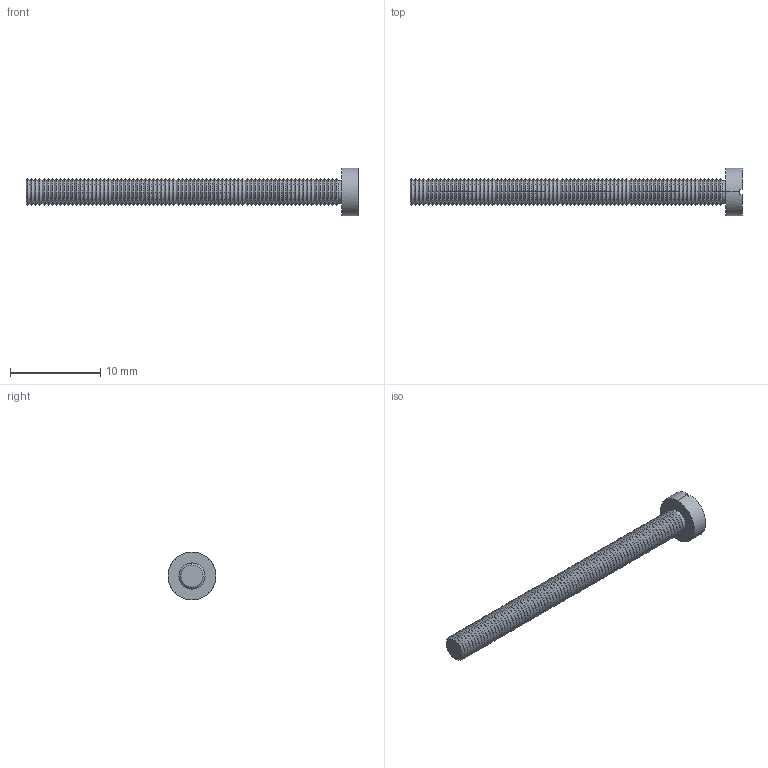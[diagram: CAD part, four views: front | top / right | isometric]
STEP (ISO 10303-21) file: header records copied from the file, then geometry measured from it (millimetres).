
FILE_DESCRIPTION (( 'STEP AP214' ), '1' );
FILE_NAME ('Cargol M 3x8 PP60C.STEP', '2016-10-09T13:33:46', ( 'aaa' ), ( '' ), 'SwSTEP 2.0', 'SolidWorks 2013', '' );
FILE_SCHEMA (( 'AUTOMOTIVE_DESIGN' ));
Length unit declared in the file: millimetre
Products named in the file (1): Cargol M 3x8 PP60C
Bounding box: 36.8 x 5.3 x 5.3 mm (x, y, z)
Volume: 239.2 mm3; surface area: 472.9 mm2
Topology: 1 solids, 1 shells, 319 faces, 640 edges, 324 vertices
Faces by surface type: cone 308, plane 7, cylinder 4
Entity records: 8044 total; most frequent: DIRECTION 1600, CARTESIAN_POINT 1284, ORIENTED_EDGE 1280, AXIS2_PLACEMENT_3D 640, EDGE_CURVE 640, VERTEX_POINT 324, EDGE_LOOP 320, LINE 320
